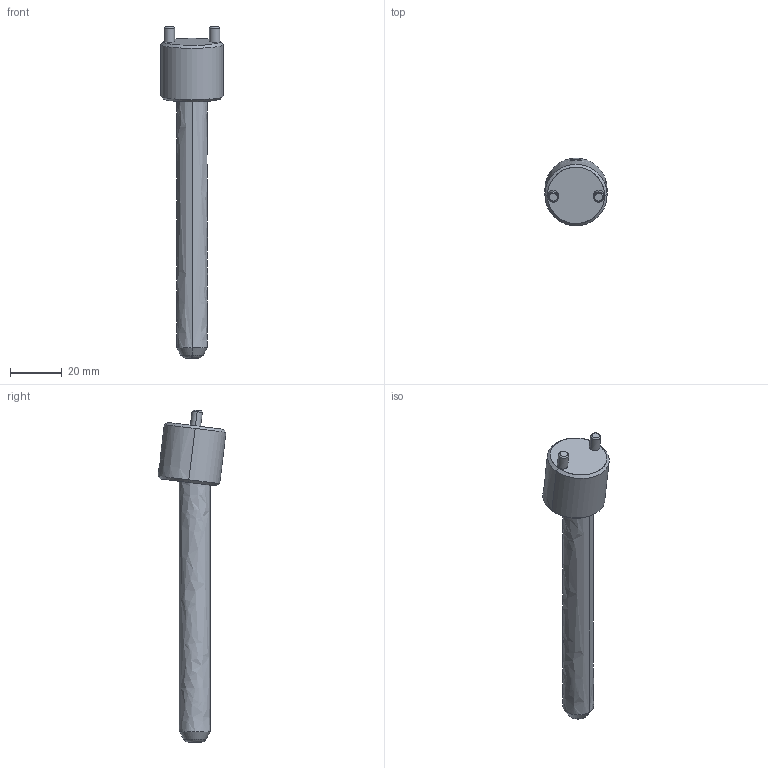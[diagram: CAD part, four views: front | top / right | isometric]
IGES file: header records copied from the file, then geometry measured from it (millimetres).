
Start section: START RECORD GO HERE.
Global section: file name: CI0712100.igs; native system: DASSAULT SYSTEMES CATIA V5 R20 - www.3ds.com; preprocessor: CATIA Version 5 Release 20 ; author: r.borello; organization: CFTORINO; date: 20190620.161543; units: millimetre
Bounding box: 24 x 26.26 x 128.28 mm (x, y, z)
Surface area: 7977.8 mm2 (no closed solid volume)
Topology: 0 solids, 0 shells, 39 faces, 162 edges, 160 vertices
Faces by surface type: revolution 32, plane 7
